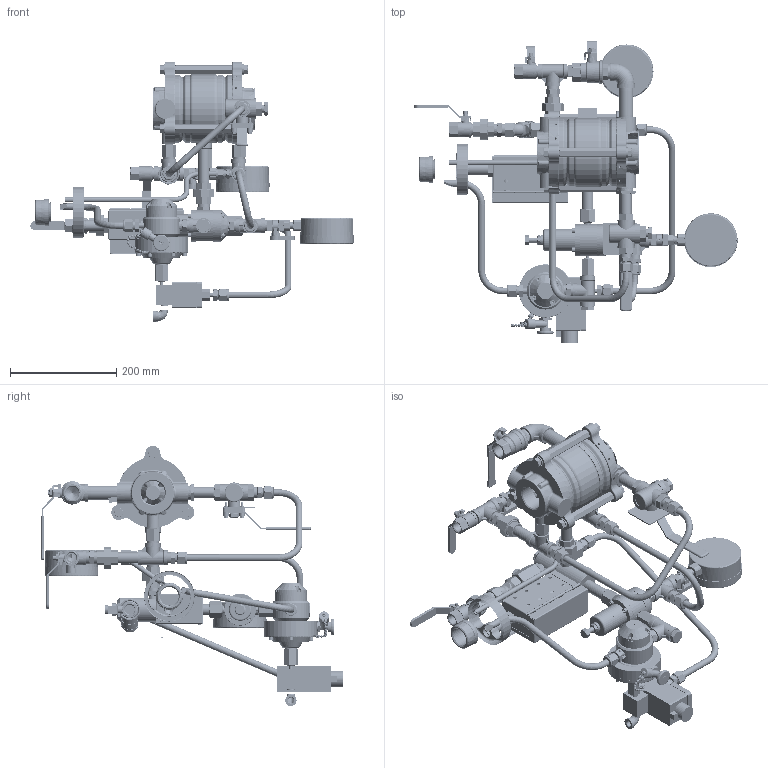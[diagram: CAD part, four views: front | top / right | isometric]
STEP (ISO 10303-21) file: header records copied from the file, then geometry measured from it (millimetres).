
FILE_DESCRIPTION(/* description */ (''),/* implementation_level */ '2;1');
FILE_NAME(/* name */ '711DX-04CR05 FM Trim 1-5in.stp',/* time_stamp */ '2025-03-25T13:20:54+02:00',/* author */ ('alex'),/* organization */ (''),/* preprocessor_version */ 'ST-DEVELOPER v20',/* originating_system */ 'Autodesk Inventor 2024',/* authorisation */ '');
FILE_SCHEMA (('AUTOMOTIVE_DESIGN { 1 0 10303 214 3 1 1 }'));
Products named in the file (1): 711DX-04CR05 FM Trim 1-5in STEP
Bounding box: 607.26 x 565.56 x 488.8 mm (x, y, z)
Volume: 3970193.6 mm3; surface area: 1296631.4 mm2
Topology: 10 solids, 90 shells, 6254 faces, 15520 edges, 9797 vertices
Faces by surface type: plane 2955, cone 1362, cylinder 1217, bspline 429, torus 257, sphere 34
Full cylindrical faces by diameter (mm): 1.2 x10, 2 x6, 3 x3, 3.242 x5, 4 x15, 4.1 x2, 4.134 x23, 4.2 x6, 5 x48, 5.08 x2, 5.2 x20, 5.25 x2, 5.5 x5, 5.8 x4, 6 x7, 6.33 x4, 6.4 x4, 6.5 x2, 6.6 x2, 6.604 x1, 6.88 x2, 7 x10, 7.036 x3, 7.3 x1, 7.5 x1, 7.515 x4, 7.6 x2, 8 x6, 8.1 x1, 8.5 x24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
Entity records: 205728 total; most frequent: CARTESIAN_POINT 57381, ORIENTED_EDGE 30692, DIRECTION 28496, EDGE_CURVE 15346, AXIS2_PLACEMENT_3D 10782, VERTEX_POINT 9737, EDGE_LOOP 7098, LINE 6932
